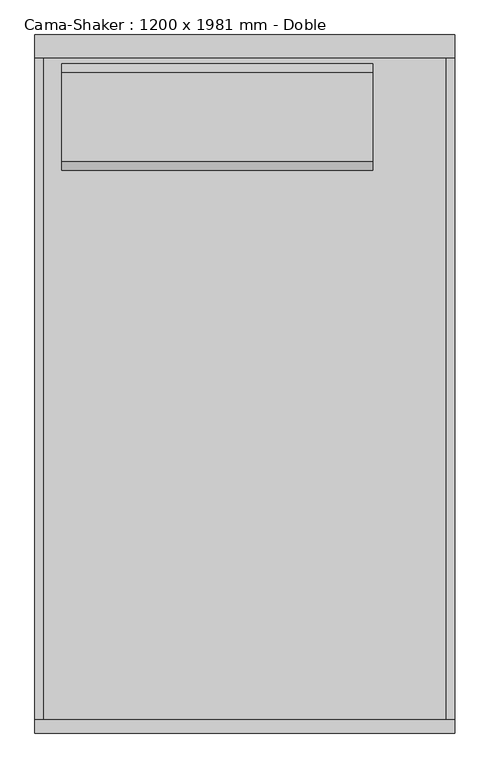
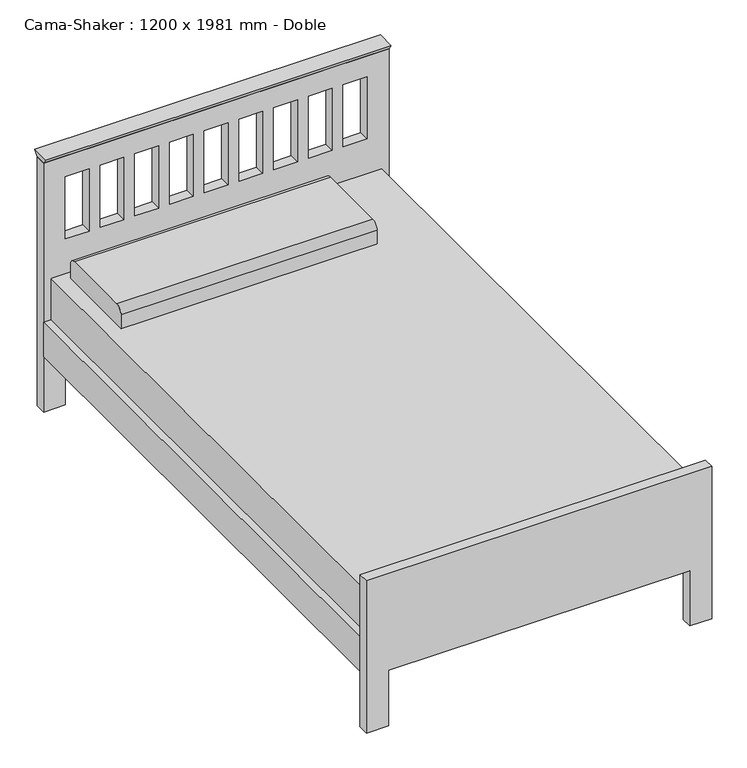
"""IFC4 building model written with IfcOpenShell, lengths in millimetres: furniture geometry, Cama-Shaker : 1200 x 1981 mm - Doble."""

import ifcopenshell
import ifcopenshell.guid

model = None  # the IFC model being written
_history = None  # IfcOwnerHistory: only IFC2X3 demands one
_inside = {}  # id of a spatial element -> (the spatial element, [elements in it])
_under = {}  # id of a project, library or spatial element -> (it, [spatial elements below it])
_declared = {}  # id of a project -> (the project, [libraries it declares])
_typed = {}  # id of a type object -> (the type object, [elements of that type])
_made_of = {}  # id of a material, layer set ... -> (it, [elements and type objects made of it])


def new_model(schema):
    """Start an empty IFC model of exactly this schema.

    Asked for "IFC4X3", IfcOpenShell would pick the latest addendum, in which some entities
    have other attributes; the version numbers below select the first issue.
    IFC2X3 requires an IfcOwnerHistory on every rooted entity: one is made here for all.
    """
    global model, _history
    if schema == "IFC4X3":
        model = ifcopenshell.file(schema_version=(4, 3, 0, 0))
    else:
        model = ifcopenshell.file(schema=schema)
    _inside.clear()
    _under.clear()
    _declared.clear()
    _typed.clear()
    _made_of.clear()
    _history = None
    if model.schema == "IFC2X3":
        org = make("IfcOrganization", Name="unknown")
        user = make(
            "IfcPersonAndOrganization",
            ThePerson=make("IfcPerson", FamilyName="unknown"),
            TheOrganization=org,
        )
        app = make(
            "IfcApplication",
            ApplicationDeveloper=org,
            Version="unknown",
            ApplicationFullName="unknown",
            ApplicationIdentifier="unknown",
        )
        _history = make(
            "IfcOwnerHistory",
            OwningUser=user,
            OwningApplication=app,
            ChangeAction="ADDED",
            CreationDate=0,
        )
    return model


def make(cls, **values):
    """One entity of the class cls with the attributes given. An attribute that is None is left unset."""
    return model.create_entity(
        cls, **{name: value for name, value in values.items() if value is not None}
    )


def rooted(cls, **values):
    """An entity with a GlobalId (a new one), such as an element, a storey or a relation."""
    return make(cls, GlobalId=ifcopenshell.guid.new(), OwnerHistory=_history, **values)


def si_unit(unit_type, name, prefix=None):
    """IfcSIUnit, for example si_unit("LENGTHUNIT", "METRE", prefix="MILLI")."""
    return make("IfcSIUnit", UnitType=unit_type, Prefix=prefix, Name=name)


def assignment(units):
    """IfcUnitAssignment: the units of a project."""
    return None if units is None else make("IfcUnitAssignment", Units=units)


def point(xyz):
    """IfcCartesianPoint."""
    return None if xyz is None else make("IfcCartesianPoint", Coordinates=xyz)


def direction(xyz):
    """IfcDirection."""
    return None if xyz is None else make("IfcDirection", DirectionRatios=xyz)


def frame(location, z_axis=None, x_axis=None):
    """IfcAxis2Placement3D, a coordinate frame: its origin and axes. An axis left out is left unset."""
    return make(
        "IfcAxis2Placement3D",
        Location=point(location),
        Axis=direction(z_axis),
        RefDirection=direction(x_axis),
    )


def frame_2d(location, x_axis=None):
    """IfcAxis2Placement2D, a coordinate frame in the plane: its origin and x axis."""
    return make(
        "IfcAxis2Placement2D", Location=point(location), RefDirection=direction(x_axis)
    )


def origin():
    """The frame at (0, 0, 0) with its axes left unset."""
    return frame((0.0, 0.0, 0.0))


def place(relative_to, where):
    """IfcLocalPlacement: puts the frame where relative to a parent placement (None: the world)."""
    return make(
        "IfcLocalPlacement", PlacementRelTo=relative_to, RelativePlacement=where
    )


def context(
    kind, dimensions, precision=None, world=None, true_north=None, identifier=None
):
    """IfcGeometricRepresentationContext, for example the 3D "Model" context."""
    return make(
        "IfcGeometricRepresentationContext",
        ContextIdentifier=identifier,
        ContextType=kind,
        CoordinateSpaceDimension=dimensions,
        Precision=precision,
        WorldCoordinateSystem=world,
        TrueNorth=true_north,
    )


def project(units=None, contexts=None):
    """IfcProject with its units and contexts."""
    return rooted(
        "IfcProject",
        Name="project",
        RepresentationContexts=contexts,
        UnitsInContext=assignment(units),
    )


def spatial(cls, under=None, at=None, **own):
    """A site, building, storey or space (cls), placed at a placement, below another one or the project."""
    s = rooted(cls, ObjectPlacement=at, **own)
    if under is not None:
        _under.setdefault(under.id(), (under, []))[1].append(s)
    return s


def polyline(points):
    """IfcPolyline through the points."""
    return make("IfcPolyline", Points=[point(p) for p in points])


def circle_curve(where, radius):
    """IfcCircle in the frame where."""
    return make("IfcCircle", Position=where, Radius=radius)


def trimmed(basis, trim1, trim2, sense, master):
    """IfcTrimmedCurve: the piece of a basis curve between two trims."""
    return make(
        "IfcTrimmedCurve",
        BasisCurve=basis,
        Trim1=trim1,
        Trim2=trim2,
        SenseAgreement=sense,
        MasterRepresentation=master,
    )


def segment(curve, same_sense, transition):
    """IfcCompositeCurveSegment."""
    return make(
        "IfcCompositeCurveSegment",
        Transition=transition,
        SameSense=same_sense,
        ParentCurve=curve,
    )


def composite_curve(segments, self_intersect=None):
    """IfcCompositeCurve: segments joined end to end."""
    return make("IfcCompositeCurve", Segments=segments, SelfIntersect=self_intersect)


def outline(outer, holes=None, kind="AREA"):
    """IfcArbitraryClosedProfileDef: a profile drawn as a closed curve; with holes, ...WithVoids."""
    if holes is None:
        return make("IfcArbitraryClosedProfileDef", ProfileType=kind, OuterCurve=outer)
    return make(
        "IfcArbitraryProfileDefWithVoids",
        ProfileType=kind,
        OuterCurve=outer,
        InnerCurves=holes,
    )


def extrude(swept, where, along, depth):
    """IfcExtrudedAreaSolid: the profile swept, set in the frame where, extruded along a direction by depth."""
    return make(
        "IfcExtrudedAreaSolid",
        SweptArea=swept,
        Position=where,
        ExtrudedDirection=direction(along),
        Depth=depth,
    )


def shape(context_of_items, identifier, shape_type, items):
    """IfcShapeRepresentation: the items that make up one representation, for example the "Body"."""
    return make(
        "IfcShapeRepresentation",
        ContextOfItems=context_of_items,
        RepresentationIdentifier=identifier,
        RepresentationType=shape_type,
        Items=items,
    )


def source(mapping_origin, context_of_items, identifier, shape_type, items):
    """IfcRepresentationMap: a shape defined once, which mapped items show again and again."""
    return make(
        "IfcRepresentationMap",
        MappingOrigin=mapping_origin,
        MappedRepresentation=shape(context_of_items, identifier, shape_type, items),
    )


def transform(
    local_origin,
    x_axis=None,
    y_axis=None,
    z_axis=None,
    scale=None,
    scale2=None,
    scale3=None,
    uniform=True,
):
    """IfcCartesianTransformationOperator3D, or its non-uniform kind. x_axis, y_axis, z_axis: its Axis1, 2, 3."""
    if uniform:
        return make(
            "IfcCartesianTransformationOperator3D",
            Axis1=direction(x_axis),
            Axis2=direction(y_axis),
            LocalOrigin=point(local_origin),
            Scale=scale,
            Axis3=direction(z_axis),
        )
    return make(
        "IfcCartesianTransformationOperator3DnonUniform",
        Axis1=direction(x_axis),
        Axis2=direction(y_axis),
        LocalOrigin=point(local_origin),
        Scale=scale,
        Axis3=direction(z_axis),
        Scale2=scale2,
        Scale3=scale3,
    )


def mapped(mapping_source, mapping_target):
    """IfcMappedItem: shows the shape of a source again, moved by a transform."""
    return make(
        "IfcMappedItem", MappingSource=mapping_source, MappingTarget=mapping_target
    )


def made_of(thing, what):
    """Note that an element or type object is made of a material, layer set ...; save() writes the relation."""
    if what is not None:
        _made_of.setdefault(what.id(), (what, []))[1].append(thing)
    return thing


def element(
    cls,
    number,
    at=None,
    inside=None,
    cuts=None,
    type_object=None,
    material=None,
    context=None,
    identifier="Body",
    shape_type=None,
    held_by="IfcProductDefinitionShape",
    body=None,
    shapes=None,
    **own,
):
    """One element of the class cls, such as IfcWall. Its Tag is "e" and its number.

    at: its placement. inside: the storey or other place that contains it. cuts: it is an
    opening in that element (IfcRelVoidsElement). A single representation is given by context,
    identifier, shape_type and body (its items); several are given by shapes. held_by: the class
    of the entity that holds the representations. save() writes the other relations.
    """
    e = rooted(cls, Tag="e%d" % number, ObjectPlacement=at, **own)
    if body is not None:
        shapes = [shape(context, identifier, shape_type, body)]
    if shapes is not None:
        e.Representation = make(held_by, Representations=shapes)
    if inside is not None:
        _inside.setdefault(inside.id(), (inside, []))[1].append(e)
    if cuts is not None:
        rooted(
            "IfcRelVoidsElement", RelatingBuildingElement=cuts, RelatedOpeningElement=e
        )
    if type_object is not None:
        _typed.setdefault(type_object.id(), (type_object, []))[1].append(e)
    return made_of(e, material)


def aggregate(whole, parts):
    """IfcRelAggregates: a whole, such as a stair, and the parts it consists of."""
    return rooted("IfcRelAggregates", RelatingObject=whole, RelatedObjects=parts)


def save(model, path):
    """Write the relations noted so far, then the file.

    IfcRelAggregates (storeys below a building ...), IfcRelContainedInSpatialStructure (elements
    in a storey), IfcRelDefinesByType, IfcRelAssociatesMaterial and IfcRelDeclares: one each for
    every whole, place, type object, material and project.
    """
    for whole, parts in _under.values():
        aggregate(whole, parts)
    for where, things in _inside.values():
        rooted(
            "IfcRelContainedInSpatialStructure",
            RelatedElements=things,
            RelatingStructure=where,
        )
    for kind, things in _typed.values():
        rooted("IfcRelDefinesByType", RelatedObjects=things, RelatingType=kind)
    for what, things in _made_of.values():
        rooted("IfcRelAssociatesMaterial", RelatedObjects=things, RelatingMaterial=what)
    for by, libraries in _declared.values():
        rooted("IfcRelDeclares", RelatingContext=by, RelatedDefinitions=libraries)
    model.write(path)


def cama_shaker_1200_x_1981_mm_doble_06cf3c13(model_context):
    return source(origin(), model_context, "Body", "SweptSolid", [
        extrude(outline(polyline([(914.4, 581.2168067), (914.4, -618.8365546), (0.0, -618.8365546), (0.0, -542.85), (203.2, -542.85), (203.2, 346.15), (0.0, 346.15), (0.0, 581.2168067), (914.4, 581.2168067)]), holes=[polyline([(838.2, -460.3166667), (609.6, -460.3166667), (609.6, -542.85), (838.2, -542.85), (838.2, -460.3166667)]), polyline([(838.2, -339.6833333), (609.6, -339.6833333), (609.6, -422.2166667), (838.2, -422.2166667), (838.2, -339.6833333)]), polyline([(838.2, -219.05), (609.6, -219.05), (609.6, -301.5833333), (838.2, -301.5833333), (838.2, -219.05)]), polyline([(838.2, -98.4166667), (609.6, -98.4166667), (609.6, -180.95), (838.2, -180.95), (838.2, -98.4166667)]), polyline([(838.2, 142.85), (609.6, 142.85), (609.6, 60.3166667), (838.2, 60.3166667), (838.2, 142.85)]), polyline([(838.2, 263.4833333), (609.6, 263.4833333), (609.6, 180.95), (838.2, 180.95), (838.2, 263.4833333)]), polyline([(838.2, 384.1166667), (609.6, 384.1166667), (609.6, 301.5833333), (838.2, 301.5833333), (838.2, 384.1166667)]), polyline([(838.2, 504.75), (609.6, 504.75), (609.6, 422.2166667), (838.2, 422.2166667), (838.2, 504.75)]), polyline([(838.2, 22.2166667), (609.6, 22.2166667), (609.6, -60.3166667), (838.2, -60.3166667), (838.2, 22.2166667)])]), frame((0.0, -38.1, 0.0), z_axis=(0.0, 1.0, 0.0), x_axis=(0.0, 0.0, 1.0)), (0.0, 0.0, 1.0), 38.1),
        extrude(outline(polyline([(0.0, -542.85), (203.2, -542.85), (203.2, 504.75), (0.0, 504.75), (0.0, 580.95), (558.8, 580.95), (558.8, -619.05), (0.0, -619.05), (0.0, -542.85)])), frame((0.0, -1981.2, 0.0), z_axis=(0.0, 1.0, 0.0), x_axis=(0.0, 0.0, 1.0)), (0.0, 0.0, 1.0), 38.1),
        extrude(outline(polyline([(-619.05, -1943.1), (-619.05, -38.1), (-593.65, -38.1), (-593.65, -1943.1), (-619.05, -1943.1)])), frame((0.0, 0.0, 203.5755296), z_axis=(0.0, 0.0, 1.0), x_axis=(1.0, 0.0, 0.0)), (0.0, 0.0, 1.0), 127.0),
        extrude(outline(polyline([(555.55, -1943.1), (555.55, -38.1), (580.95, -38.1), (580.95, -1943.1), (555.55, -1943.1)])), frame((0.0, 0.0, 203.0994861), z_axis=(0.0, 0.0, 1.0), x_axis=(1.0, 0.0, 0.0)), (0.0, 0.0, 1.0), 127.0),
        extrude(outline(polyline([(555.55, -38.1), (555.55, -1943.1), (-593.65, -1943.1), (-593.65, -38.1), (555.55, -38.1)])), frame((0.0, 0.0, 228.6), z_axis=(0.0, 0.0, 1.0), x_axis=(1.0, 0.0, 0.0)), (0.0, 0.0, 1.0), 254.0),
        extrude(outline(composite_curve([segment(polyline([(-373.2486637, 482.6), (-373.2486637, 533.4)]), True, "CONTINUOUS"), segment(trimmed(circle_curve(frame_2d((-347.8486637, 533.4)), 25.4), [point((-373.2486637, 533.4))], [point((-347.8486637, 558.8))], False, "CARTESIAN"), True, "CONTINUOUS"), segment(polyline([(-347.8486637, 558.8), (-93.8486637, 558.8)]), True, "CONTINUOUS"), segment(trimmed(circle_curve(frame_2d((-93.8486637, 533.4)), 25.4), [point((-93.8486637, 558.8))], [point((-68.4486637, 533.4))], False, "CARTESIAN"), True, "CONTINUOUS"), segment(polyline([(-68.4486637, 533.4), (-68.4486637, 482.6), (-373.2486637, 482.6)]), True, "CONTINUOUS")], self_intersect=False)), frame((-542.85, 0.0, 0.0), z_axis=(1.0, 0.0, 0.0), x_axis=(0.0, 1.0, 0.0)), (0.0, 0.0, 1.0), 889.0),
        extrude(outline(polyline([(-38.1, 914.4), (-51.9545455, 933.45), (13.8545455, 933.45), (0.0, 914.4), (-38.1, 914.4)])), frame((-618.8365546, 0.0, 0.0), z_axis=(1.0, 0.0, 0.0), x_axis=(0.0, 1.0, 0.0)), (0.0, 0.0, 1.0), 1200.0533613),
    ])


if __name__ == "__main__":
    model = new_model("IFC4")
    model_context = context("Model", 3, world=origin())
    ifc_project = project(units=[si_unit("LENGTHUNIT", "METRE", prefix="MILLI")], contexts=[model_context])
    site = spatial("IfcSite", under=ifc_project)
    building = spatial("IfcBuilding", under=site)
    placement = place(None, origin())
    cama_shaker_1200_x_1981_mm_doble_shape = cama_shaker_1200_x_1981_mm_doble_06cf3c13(model_context)
    element("IfcFurniture", 1, ObjectType="Cama-Shaker : 1200 x 1981 mm - Doble", at=placement, inside=building, context=model_context, shape_type="MappedRepresentation", body=[
        mapped(cama_shaker_1200_x_1981_mm_doble_shape, transform((0.0, 0.0, 0.0), x_axis=(1.0, 0.0, 0.0), y_axis=(0.0, 1.0, 0.0), z_axis=(0.0, 0.0, 1.0))),
    ])
    save(model, "model.ifc")
